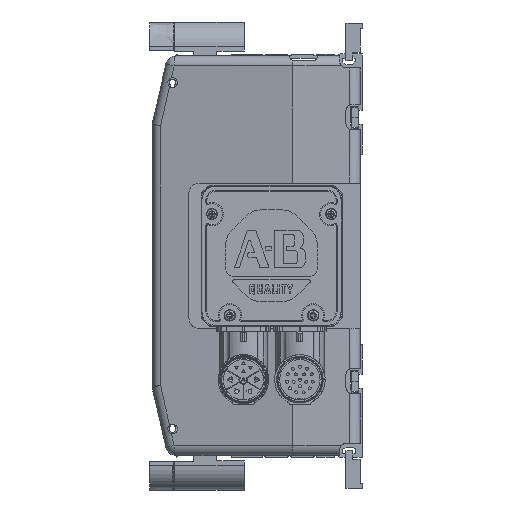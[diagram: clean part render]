
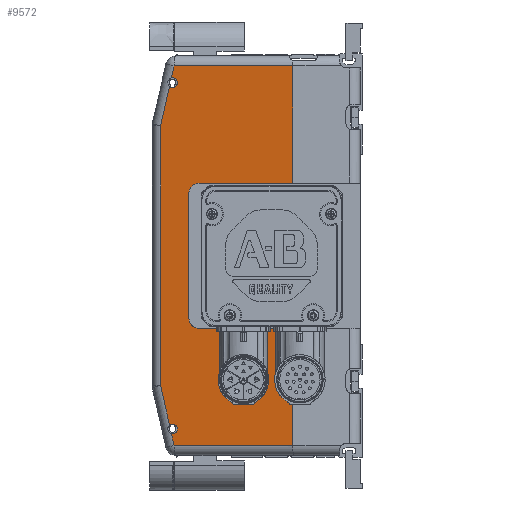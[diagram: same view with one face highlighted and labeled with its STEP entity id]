
A CAD part, left-side view. The second image highlights one B-rep face of the part: STEP entity #9572.
In plain terms, the highlighted planar face has unit normal (-0.985, 0.172, 0).
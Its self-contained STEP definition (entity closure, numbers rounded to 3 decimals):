
#8060=DIRECTION('',(0.,0.,1.));
#8061=VECTOR('',#8060,58.071);
#8062=CARTESIAN_POINT('',(0.,33.317,36.002));
#8063=LINE('',#8062,#8061);
#8138=DIRECTION('',(0.,0.,1.));
#8139=VECTOR('',#8138,58.075);
#8140=CARTESIAN_POINT('',(0.,33.317,-94.073));
#8141=LINE('',#8140,#8139);
#8285=DIRECTION('',(0.172,0.985,0.));
#8286=VECTOR('',#8285,47.214);
#8287=CARTESIAN_POINT('',(0.,33.317,36.002));
#8288=LINE('',#8287,#8286);
#8289=CARTESIAN_POINT('',(8.142,79.823,36.002));
#8290=CARTESIAN_POINT('',(8.287,80.65,36.002));
#8291=CARTESIAN_POINT('',(8.514,81.952,35.644));
#8292=CARTESIAN_POINT('',(8.772,83.424,34.62));
#8293=CARTESIAN_POINT('',(8.953,84.457,33.15));
#8294=CARTESIAN_POINT('',(9.017,84.823,31.842));
#8295=CARTESIAN_POINT('',(9.017,84.823,31.002));
#8297=DIRECTION('',(0.,0.,-1.));
#8298=VECTOR('',#8297,62.);
#8299=CARTESIAN_POINT('',(9.017,84.823,31.002));
#8300=LINE('',#8299,#8298);
#8301=CARTESIAN_POINT('',(9.017,84.823,-30.998));
#8302=CARTESIAN_POINT('',(9.017,84.823,-31.838));
#8303=CARTESIAN_POINT('',(8.953,84.457,-33.146));
#8304=CARTESIAN_POINT('',(8.772,83.424,-34.616));
#8305=CARTESIAN_POINT('',(8.514,81.952,-35.64));
#8306=CARTESIAN_POINT('',(8.287,80.65,-35.998));
#8307=CARTESIAN_POINT('',(8.142,79.823,-35.998));
#8309=DIRECTION('',(0.172,0.985,0.));
#8310=VECTOR('',#8309,47.214);
#8311=CARTESIAN_POINT('',(0.,33.317,-35.998));
#8312=LINE('',#8311,#8310);
#8313=DIRECTION('',(0.172,0.985,0.));
#8314=VECTOR('',#8313,59.786);
#8315=CARTESIAN_POINT('',(0.,33.317,-94.073));
#8316=LINE('',#8315,#8314);
#8317=DIRECTION('',(0.038,0.219,0.975));
#8318=VECTOR('',#8317,6.036);
#8319=CARTESIAN_POINT('',(10.31,92.207,-94.073));
#8320=LINE('',#8319,#8318);
#8321=DIRECTION('',(0.038,0.219,0.975));
#8322=VECTOR('',#8321,20.124);
#8323=CARTESIAN_POINT('',(10.705,94.462,-84.016));
#8324=LINE('',#8323,#8322);
#8325=DIRECTION('',(-0.038,-0.219,0.975));
#8326=VECTOR('',#8325,20.101);
#8327=CARTESIAN_POINT('',(11.475,98.862,64.394));
#8328=LINE('',#8327,#8326);
#8329=DIRECTION('',(-0.038,-0.219,0.975));
#8330=VECTOR('',#8329,6.064);
#8331=CARTESIAN_POINT('',(10.542,93.533,88.16));
#8332=LINE('',#8331,#8330);
#8333=DIRECTION('',(-0.172,-0.985,0.));
#8334=VECTOR('',#8333,59.786);
#8335=CARTESIAN_POINT('',(10.31,92.207,94.073));
#8336=LINE('',#8335,#8334);
#8609=CARTESIAN_POINT('',(10.436,92.93,83.437));
#8610=CARTESIAN_POINT('',(10.387,92.647,83.437));
#8611=CARTESIAN_POINT('',(10.28,92.036,83.54));
#8612=CARTESIAN_POINT('',(10.13,91.182,84.088));
#8613=CARTESIAN_POINT('',(10.034,90.633,84.949));
#8614=CARTESIAN_POINT('',(10.007,90.479,85.837));
#8615=CARTESIAN_POINT('',(10.034,90.633,86.725));
#8616=CARTESIAN_POINT('',(10.13,91.182,87.586));
#8617=CARTESIAN_POINT('',(10.28,92.036,88.134));
#8618=CARTESIAN_POINT('',(10.387,92.647,88.237));
#8619=CARTESIAN_POINT('',(10.436,92.93,88.237));
#8625=CARTESIAN_POINT('',(10.436,92.93,88.237));
#8626=CARTESIAN_POINT('',(10.472,93.134,88.237));
#8627=CARTESIAN_POINT('',(10.507,93.335,88.211));
#8628=CARTESIAN_POINT('',(10.542,93.533,88.16));
#8634=CARTESIAN_POINT('',(10.705,94.467,83.994));
#8635=CARTESIAN_POINT('',(10.627,94.021,83.622));
#8636=CARTESIAN_POINT('',(10.538,93.508,83.437));
#8637=CARTESIAN_POINT('',(10.436,92.93,83.437));
#8677=DIRECTION('',(0.,0.,-1.));
#8678=VECTOR('',#8677,128.789);
#8679=CARTESIAN_POINT('',(11.475,98.862,64.394));
#8680=LINE('',#8679,#8678);
#8711=CARTESIAN_POINT('',(10.436,92.93,-83.463));
#8712=CARTESIAN_POINT('',(10.537,93.506,-83.463));
#8713=CARTESIAN_POINT('',(10.627,94.017,-83.646));
#8714=CARTESIAN_POINT('',(10.705,94.462,-84.016));
#8720=CARTESIAN_POINT('',(10.541,93.527,-88.188));
#8721=CARTESIAN_POINT('',(10.507,93.331,-88.238));
#8722=CARTESIAN_POINT('',(10.472,93.132,-88.263));
#8723=CARTESIAN_POINT('',(10.436,92.93,-88.263));
#8725=CARTESIAN_POINT('',(10.436,92.93,-88.263));
#8726=CARTESIAN_POINT('',(10.387,92.647,-88.263));
#8727=CARTESIAN_POINT('',(10.28,92.036,-88.16));
#8728=CARTESIAN_POINT('',(10.13,91.182,-87.612));
#8729=CARTESIAN_POINT('',(10.034,90.633,-86.751));
#8730=CARTESIAN_POINT('',(10.007,90.479,-85.863));
#8731=CARTESIAN_POINT('',(10.034,90.633,-84.975));
#8732=CARTESIAN_POINT('',(10.13,91.182,-84.114));
#8733=CARTESIAN_POINT('',(10.28,92.036,-83.566));
#8734=CARTESIAN_POINT('',(10.387,92.647,-83.463));
#8735=CARTESIAN_POINT('',(10.436,92.93,-83.463));
#9106=VERTEX_POINT('',#8609);
#9107=VERTEX_POINT('',#8619);
#9108=VERTEX_POINT('',#8725);
#9109=VERTEX_POINT('',#8735);
#9115=CARTESIAN_POINT('',(0.,33.317,94.073));
#9116=VERTEX_POINT('',#9115);
#9123=CARTESIAN_POINT('',(0.,33.317,-94.073));
#9124=VERTEX_POINT('',#9123);
#9151=CARTESIAN_POINT('',(0.,33.317,36.002));
#9153=VERTEX_POINT('',#9151);
#9155=CARTESIAN_POINT('',(0.,33.317,-35.998));
#9157=VERTEX_POINT('',#9155);
#9166=CARTESIAN_POINT('',(8.142,79.823,36.002));
#9167=VERTEX_POINT('',#9166);
#9168=VERTEX_POINT('',#8295);
#9169=CARTESIAN_POINT('',(9.017,84.823,-30.998));
#9170=VERTEX_POINT('',#9169);
#9171=VERTEX_POINT('',#8307);
#9216=CARTESIAN_POINT('',(11.475,98.862,64.394));
#9217=VERTEX_POINT('',#9216);
#9218=CARTESIAN_POINT('',(10.705,94.467,83.994));
#9219=VERTEX_POINT('',#9218);
#9220=CARTESIAN_POINT('',(10.542,93.533,88.16));
#9221=CARTESIAN_POINT('',(10.31,92.207,94.073));
#9222=VERTEX_POINT('',#9220);
#9223=VERTEX_POINT('',#9221);
#9228=CARTESIAN_POINT('',(11.475,98.862,-64.394));
#9230=VERTEX_POINT('',#9228);
#9234=CARTESIAN_POINT('',(10.705,94.462,-84.016));
#9235=VERTEX_POINT('',#9234);
#9236=CARTESIAN_POINT('',(10.31,92.207,-94.073));
#9237=CARTESIAN_POINT('',(10.541,93.527,-88.188));
#9238=VERTEX_POINT('',#9236);
#9239=VERTEX_POINT('',#9237);
#9529=CARTESIAN_POINT('',(0.,33.317,100.));
#9530=DIRECTION('',(0.985,-0.172,0.));
#9531=DIRECTION('',(0.172,0.985,0.));
#9532=AXIS2_PLACEMENT_3D('',#9529,#9530,#9531);
#9533=PLANE('',#9532);
#9534=ORIENTED_EDGE('',*,*,#9314,.T.);
#9536=ORIENTED_EDGE('',*,*,#9535,.T.);
#9538=ORIENTED_EDGE('',*,*,#9537,.T.);
#9540=ORIENTED_EDGE('',*,*,#9539,.T.);
#9541=ORIENTED_EDGE('',*,*,#9519,.F.);
#9542=ORIENTED_EDGE('',*,*,#9295,.F.);
#9544=ORIENTED_EDGE('',*,*,#9543,.T.);
#9546=ORIENTED_EDGE('',*,*,#9545,.T.);
#9548=ORIENTED_EDGE('',*,*,#9547,.T.);
#9550=ORIENTED_EDGE('',*,*,#9549,.T.);
#9552=ORIENTED_EDGE('',*,*,#9551,.T.);
#9554=ORIENTED_EDGE('',*,*,#9553,.T.);
#9556=ORIENTED_EDGE('',*,*,#9555,.F.);
#9558=ORIENTED_EDGE('',*,*,#9557,.T.);
#9560=ORIENTED_EDGE('',*,*,#9559,.T.);
#9562=ORIENTED_EDGE('',*,*,#9561,.T.);
#9564=ORIENTED_EDGE('',*,*,#9563,.T.);
#9566=ORIENTED_EDGE('',*,*,#9565,.T.);
#9568=ORIENTED_EDGE('',*,*,#9567,.T.);
#9569=ORIENTED_EDGE('',*,*,#9251,.F.);
#9570=EDGE_LOOP('',(#9534,#9536,#9538,#9540,#9541,#9542,#9544,#9546,#9548,#9550,
#9552,#9554,#9556,#9558,#9560,#9562,#9564,#9566,#9568,#9569));
#9571=FACE_OUTER_BOUND('',#9570,.F.);
#9572=ADVANCED_FACE('',(#9571),#9533,.F.);
#8296=B_SPLINE_CURVE_WITH_KNOTS('',3,(#8289,#8290,#8291,#8292,#8293,#8294,
#8295),.UNSPECIFIED.,.F.,.F.,(4,1,1,1,4),(0.,0.25,0.5,0.75,1.),
.UNSPECIFIED.);
#8308=B_SPLINE_CURVE_WITH_KNOTS('',3,(#8301,#8302,#8303,#8304,#8305,#8306,
#8307),.UNSPECIFIED.,.F.,.F.,(4,1,1,1,4),(0.,0.25,0.5,0.75,1.),
.UNSPECIFIED.);
#8620=B_SPLINE_CURVE_WITH_KNOTS('',3,(#8609,#8610,#8611,#8612,#8613,#8614,#8615,
#8616,#8617,#8618,#8619),.UNSPECIFIED.,.F.,.F.,(4,1,1,1,1,1,1,1,4),(0.,
0.125,0.25,0.375,0.5,0.625,0.75,0.875,1.),.UNSPECIFIED.);
#8629=B_SPLINE_CURVE_WITH_KNOTS('',3,(#8625,#8626,#8627,#8628),.UNSPECIFIED.,
.F.,.F.,(4,4),(0.,1.),.UNSPECIFIED.);
#8638=B_SPLINE_CURVE_WITH_KNOTS('',3,(#8634,#8635,#8636,#8637),.UNSPECIFIED.,
.F.,.F.,(4,4),(0.,1.),.UNSPECIFIED.);
#8715=B_SPLINE_CURVE_WITH_KNOTS('',3,(#8711,#8712,#8713,#8714),.UNSPECIFIED.,
.F.,.F.,(4,4),(0.,1.),.UNSPECIFIED.);
#8724=B_SPLINE_CURVE_WITH_KNOTS('',3,(#8720,#8721,#8722,#8723),.UNSPECIFIED.,
.F.,.F.,(4,4),(0.,1.),.UNSPECIFIED.);
#8736=B_SPLINE_CURVE_WITH_KNOTS('',3,(#8725,#8726,#8727,#8728,#8729,#8730,#8731,
#8732,#8733,#8734,#8735),.UNSPECIFIED.,.F.,.F.,(4,1,1,1,1,1,1,1,4),(0.,
0.125,0.25,0.375,0.5,0.625,0.75,0.875,1.),.UNSPECIFIED.);
#9251=EDGE_CURVE('',#9153,#9116,#8063,.T.);
#9295=EDGE_CURVE('',#9124,#9157,#8141,.T.);
#9314=EDGE_CURVE('',#9153,#9167,#8288,.T.);
#9519=EDGE_CURVE('',#9157,#9171,#8312,.T.);
#9535=EDGE_CURVE('',#9167,#9168,#8296,.T.);
#9537=EDGE_CURVE('',#9168,#9170,#8300,.T.);
#9539=EDGE_CURVE('',#9170,#9171,#8308,.T.);
#9543=EDGE_CURVE('',#9124,#9238,#8316,.T.);
#9545=EDGE_CURVE('',#9238,#9239,#8320,.T.);
#9547=EDGE_CURVE('',#9239,#9108,#8724,.T.);
#9549=EDGE_CURVE('',#9108,#9109,#8736,.T.);
#9551=EDGE_CURVE('',#9109,#9235,#8715,.T.);
#9553=EDGE_CURVE('',#9235,#9230,#8324,.T.);
#9555=EDGE_CURVE('',#9217,#9230,#8680,.T.);
#9557=EDGE_CURVE('',#9217,#9219,#8328,.T.);
#9559=EDGE_CURVE('',#9219,#9106,#8638,.T.);
#9561=EDGE_CURVE('',#9106,#9107,#8620,.T.);
#9563=EDGE_CURVE('',#9107,#9222,#8629,.T.);
#9565=EDGE_CURVE('',#9222,#9223,#8332,.T.);
#9567=EDGE_CURVE('',#9223,#9116,#8336,.T.);
